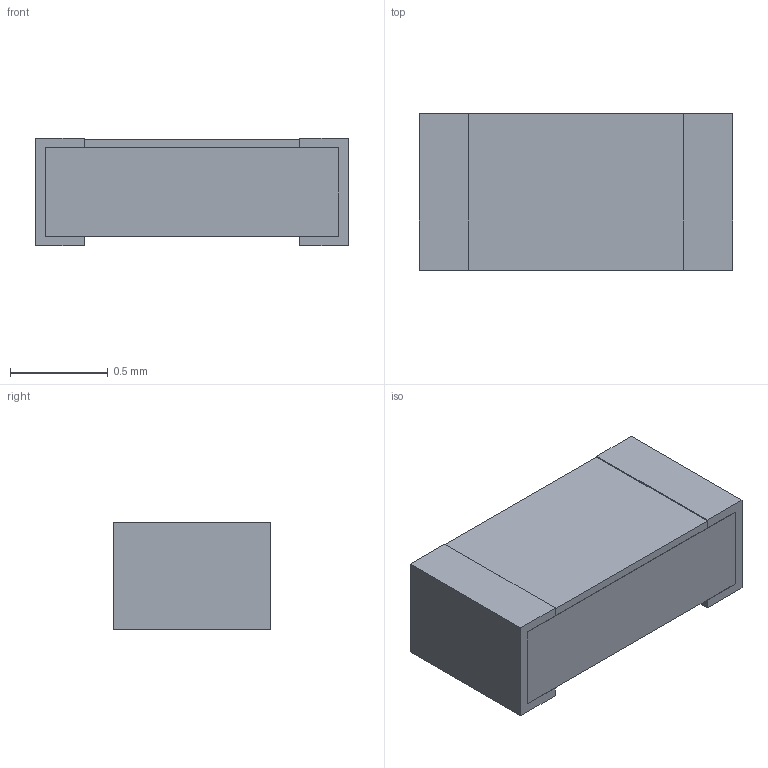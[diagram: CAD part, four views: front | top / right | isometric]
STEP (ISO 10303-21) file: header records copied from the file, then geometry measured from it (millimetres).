
FILE_DESCRIPTION(('STEP AP203'), '1');
FILE_NAME('Ð1-8 0603 ', '', ('UNSPECIFIED'), ('UNSPECIFIED'), 'ASCON STEP Converter 1.6', 'ASCON Math Kernel', '');
FILE_SCHEMA(('CONFIG_CONTROL_DESIGN'));
Length unit declared in the file: millimetre
Bounding box: 1.6 x 0.8 x 0.55 mm (x, y, z)
Volume: 0.7 mm3; surface area: 10.1 mm2
Topology: 4 solids, 5 shells, 51 faces, 123 edges, 82 vertices
Faces by surface type: plane 47, cylinder 4
Entity records: 1937 total; most frequent: CARTESIAN_POINT 257, ORIENTED_EDGE 246, DIRECTION 235, EDGE_CURVE 123, LINE 115, VECTOR 115, VERTEX_POINT 82, AXIS2_PLACEMENT_3D 60
